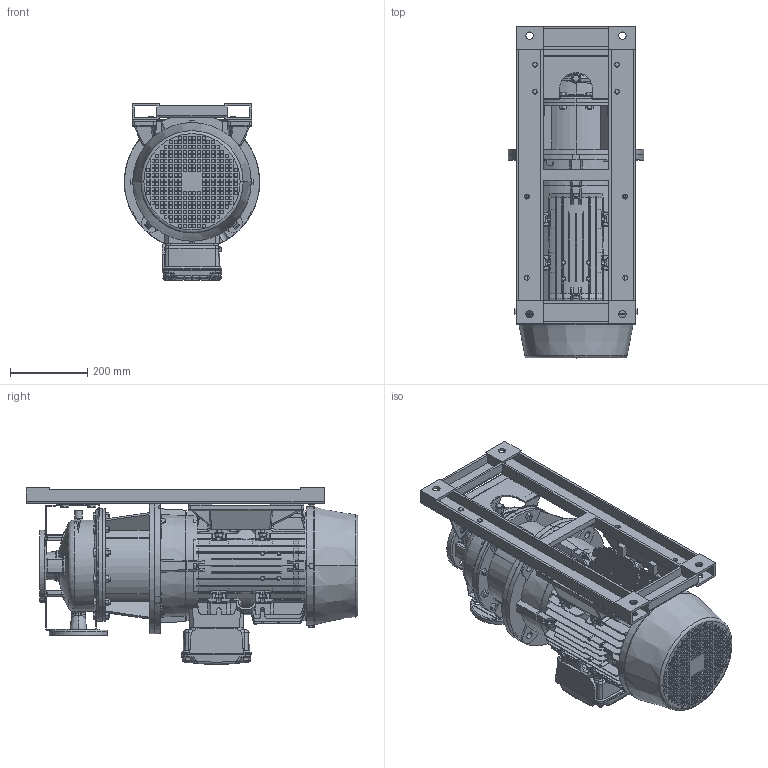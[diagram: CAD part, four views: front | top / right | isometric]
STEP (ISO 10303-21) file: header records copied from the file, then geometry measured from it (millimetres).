
FILE_DESCRIPTION (( 'STEP AP214' ), '1' );
FILE_NAME ('3LS 40-200_11.0_(160ML)_W21.STEP', '2026-08-11T00:50:26', ( '' ), ( '' ), 'SwSTEP 2.0', 'SolidWorks 2024', '' );
FILE_SCHEMA (( 'AUTOMOTIVE_DESIGN' ));
Length unit declared in the file: inch
Products named in the file (3): 160M_L_ALIE3_W21T_B35; 3LS 40-200_11.0_(160ML)_W21; 40-200_11
Assembly tree (2 placements, depth 2):
  3LS 40-200_11.0_(160ML)_W21
    40-200_11
    160M_L_ALIE3_W21T_B35
Bounding box: 350 x 857.3 x 456.5 mm (x, y, z)
Volume: 43371889.1 mm3; surface area: 3508932.6 mm2
Topology: 43 solids, 49 shells, 5572 faces, 14393 edges, 9344 vertices
Faces by surface type: plane 3680, cylinder 885, cone 487, bspline 359, torus 141, sphere 20
Entity records: 198384 total; most frequent: CARTESIAN_POINT 66178, ORIENTED_EDGE 28734, DIRECTION 24802, EDGE_CURVE 14367, LINE 9638, VECTOR 9638, VERTEX_POINT 9342, AXIS2_PLACEMENT_3D 7582
